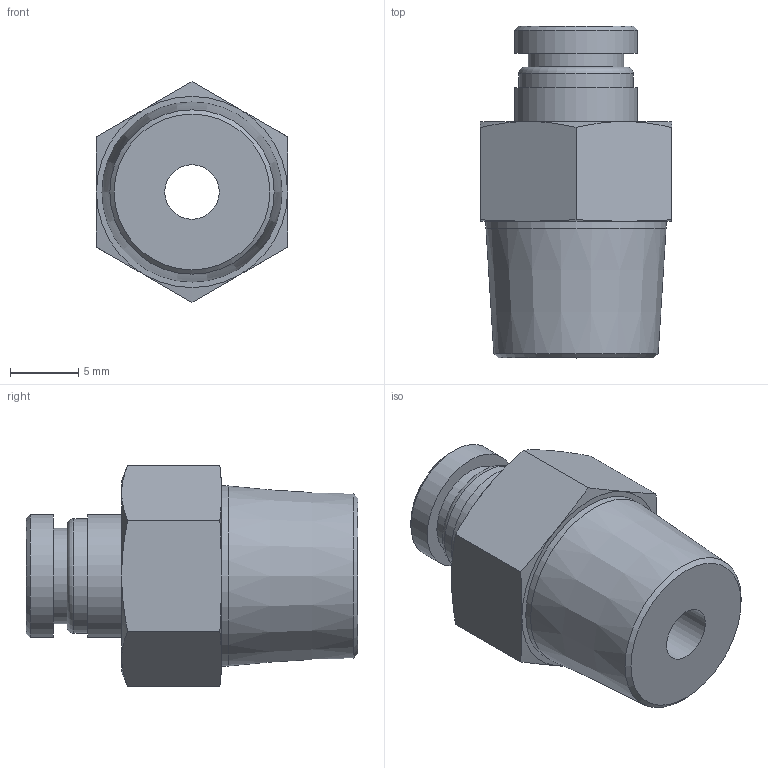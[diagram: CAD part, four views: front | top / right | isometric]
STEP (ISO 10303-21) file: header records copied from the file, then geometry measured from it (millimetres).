
FILE_DESCRIPTION(/* description */ (''),/* implementation_level */ '2;1');
FILE_NAME(/* name */ 'LXH11 0006 B2.stp',/* time_stamp */ '2026-04-19T14:18:50+02:00',/* author */ ('freju'),/* organization */ (''),/* preprocessor_version */ 'ST-DEVELOPER v20.1',/* originating_system */ 'Autodesk Inventor 2026',/* authorisation */ '');
FILE_SCHEMA (('AUTOMOTIVE_DESIGN { 1 0 10303 214 3 1 1 }'));
Length unit declared in the file: millimetre
Products named in the file (1): LXH11 0006 B2
Bounding box: 14 x 24.3 x 16.17 mm (x, y, z)
Volume: 2430.4 mm3; surface area: 1624.6 mm2
Topology: 1 solids, 1 shells, 37 faces, 74 edges, 45 vertices
Faces by surface type: cone 15, plane 14, cylinder 7, torus 1
Full cylindrical faces by diameter (mm): 4 x1, 6 x1, 7 x1, 8.4 x1, 9 x2, 13.189 x1
Entity records: 981 total; most frequent: CARTESIAN_POINT 205, DIRECTION 160, ORIENTED_EDGE 148, EDGE_CURVE 74, AXIS2_PLACEMENT_3D 72, EDGE_LOOP 45, VERTEX_POINT 45, FACE_OUTER_BOUND 37
